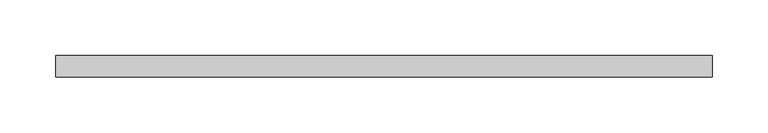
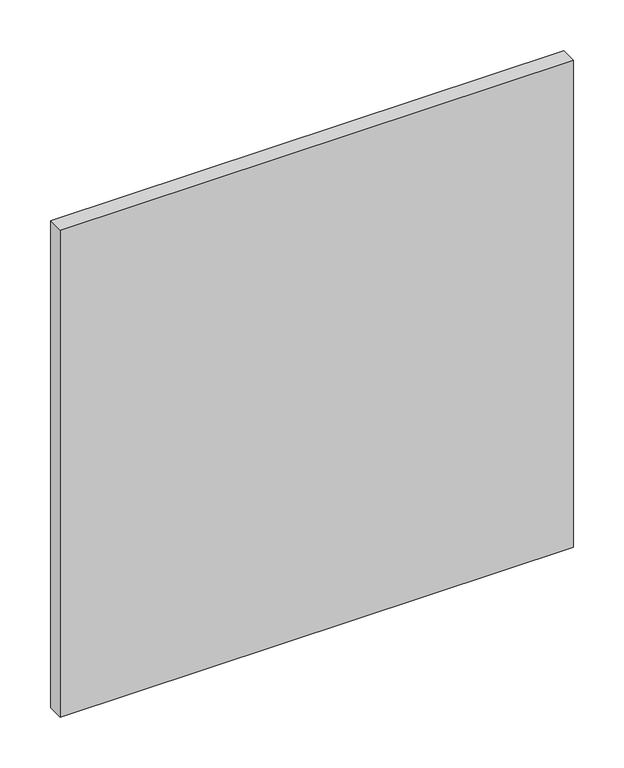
"""IFC4 building model written with IfcOpenShell, lengths in millimetres: proxy geometry, BASYS^CREDENZA 1_INTERNAL DETAILS-INTERNAL BOTTOM."""

from ifc_helpers import new_model, si_unit, frame, origin, place, context, project, spatial, polyline, outline, extrude, source, transform, mapped, element, save


def generic_models_36aad1c9(model_context):
    return source(origin(), model_context, "Body", "SweptSolid", [
        extrude(outline(polyline([(604.8375, -668.5), (19.05, -668.5), (19.05, -649.45), (604.8375, -649.45), (604.8375, -668.5)])), frame((0.0, 0.0, -615.95), z_axis=(0.0, 0.0, 1.0), x_axis=(1.0, 0.0, 0.0)), (0.0, 0.0, 1.0), 587.375),
    ])


if __name__ == "__main__":
    model = new_model("IFC4")
    model_context = context("Model", 3, world=origin())
    ifc_project = project(units=[si_unit("LENGTHUNIT", "METRE", prefix="MILLI")], contexts=[model_context])
    site = spatial("IfcSite", under=ifc_project)
    building = spatial("IfcBuilding", under=site)
    placement = place(None, origin())
    generic_models_shape = generic_models_36aad1c9(model_context)
    element("IfcBuildingElementProxy", 1, Name="BASYS^CREDENZA 1_INTERNAL DETAILS-INTERNAL BOTTOM", ObjectType="BASYS^CREDENZA 1_INTERNAL DETAILS-INTERNAL BOTTOM", at=placement, inside=building, context=model_context, shape_type="MappedRepresentation", body=[
        mapped(generic_models_shape, transform((0.0, 0.0, 0.0), x_axis=(1.0, 0.0, 0.0), y_axis=(0.0, 1.0, 0.0), z_axis=(0.0, 0.0, 1.0))),
    ])
    save(model, "model.ifc")
